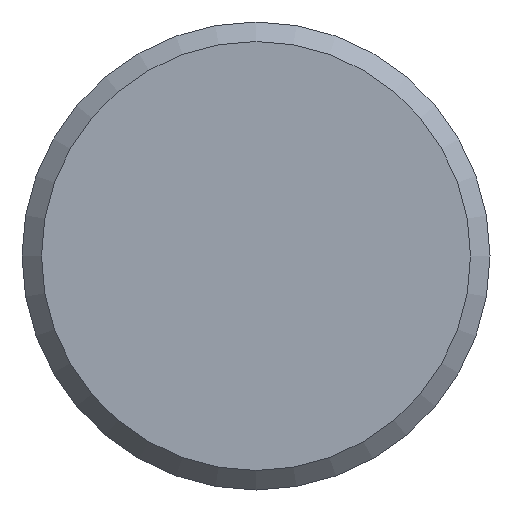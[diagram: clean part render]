
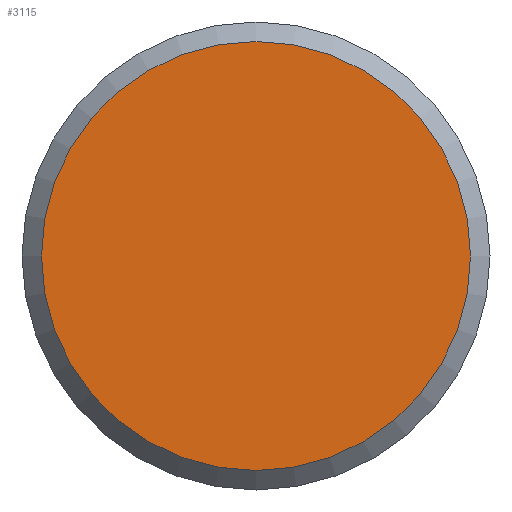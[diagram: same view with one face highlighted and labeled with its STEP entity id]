
A CAD part, left-side view. The second image highlights one B-rep face of the part: STEP entity #3115.
In plain terms, the highlighted planar face has unit normal (-1, 0, 0).
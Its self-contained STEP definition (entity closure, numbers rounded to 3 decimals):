
#1140=PLANE('',#2901);
#1202=ORIENTED_EDGE('',*,*,#1618,.F.);
#1408=CIRCLE('',#2900,5.5);
#1513=VERTEX_POINT('',#2582);
#1618=EDGE_CURVE('',#1513,#1513,#1408,.T.);
#1727=EDGE_LOOP('',(#1202));
#1937=FACE_BOUND('',#1727,.T.);
#2154=DIRECTION('',(1.,0.,0.));
#2155=DIRECTION('',(0.,-5.5,0.));
#2156=DIRECTION('',(-1.,0.,0.));
#2157=DIRECTION('',(0.,1.,0.));
#2582=CARTESIAN_POINT('',(58.044,133.99,0.));
#2583=CARTESIAN_POINT('',(58.044,139.49,0.));
#2584=CARTESIAN_POINT('',(58.044,139.49,0.));
#2900=AXIS2_PLACEMENT_3D('',#2583,#2154,#2155);
#2901=AXIS2_PLACEMENT_3D('',#2584,#2156,#2157);
#3115=ADVANCED_FACE('',(#1937),#1140,.T.);
